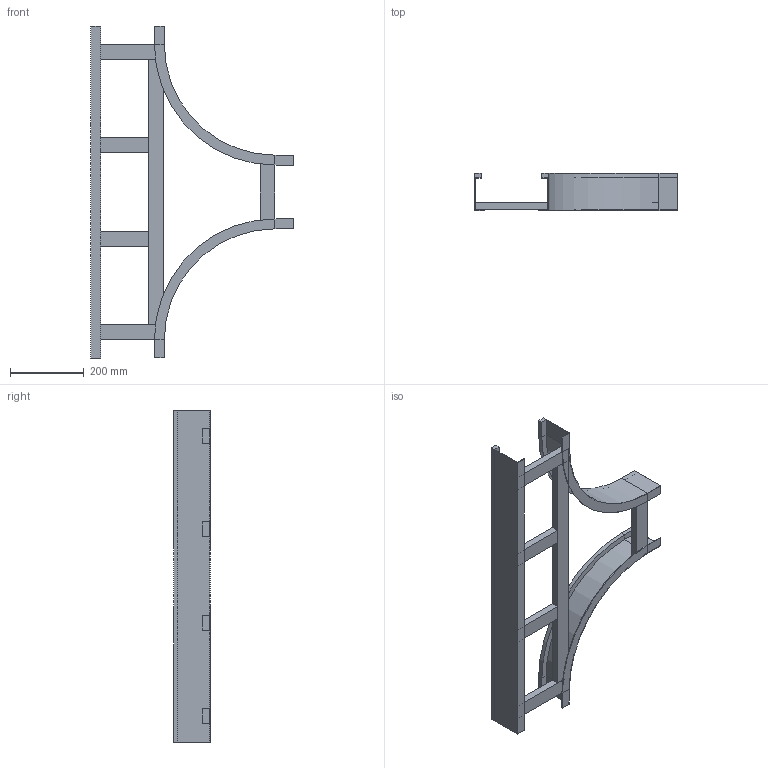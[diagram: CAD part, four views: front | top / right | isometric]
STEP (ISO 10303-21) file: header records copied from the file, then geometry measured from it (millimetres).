
FILE_DESCRIPTION (( 'STEP AP214' ), '1' );
FILE_NAME ('B2_15B3D200.step', '2025-02-21T15:50:04', ( '' ), ( '' ), 'SwSTEP 2.0', 'SolidWorks 2023', '' );
FILE_SCHEMA (( 'AUTOMOTIVE_DESIGN' ));
Length unit declared in the file: millimetre
Products named in the file (6): B2_TRAVERSINO_LONG._R300+200; TRAVERSINO_INTERMEDIO_R300+200; B2_15B3D200; TRAVERSINO_200; B2_LONGH.RETT_H100_R300+200; B2_LONGH.INTERNO 90°_H100_R300
Assembly tree (9 placements, depth 2):
  B2_15B3D200
    B2_LONGH.INTERNO 90°_H100_R300  x2
    B2_LONGH.RETT_H100_R300+200
    TRAVERSINO_200  x3
    B2_TRAVERSINO_LONG._R300+200
    TRAVERSINO_INTERMEDIO_R300+200  x2
Bounding box: 550 x 100 x 900 mm (x, y, z)
Volume: 2222293 mm3; surface area: 796982.8 mm2
Topology: 9 solids, 9 shells, 98 faces, 208 edges, 128 vertices
Faces by surface type: plane 90, cylinder 8
Entity records: 1639 total; most frequent: DIRECTION 256, CARTESIAN_POINT 254, ORIENTED_EDGE 232, EDGE_CURVE 116, VECTOR 108, LINE 108, AXIS2_PLACEMENT_3D 74, VERTEX_POINT 72
